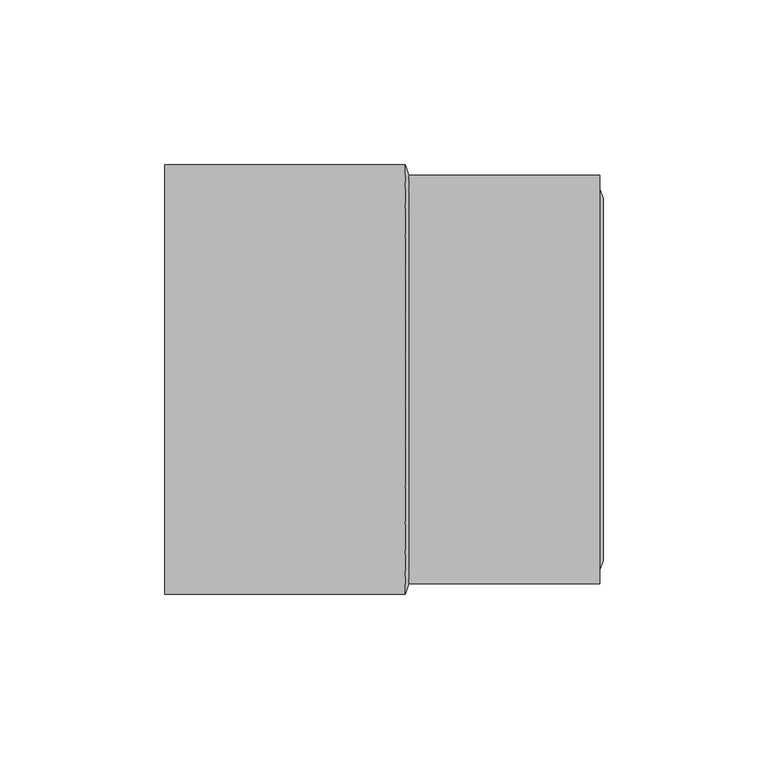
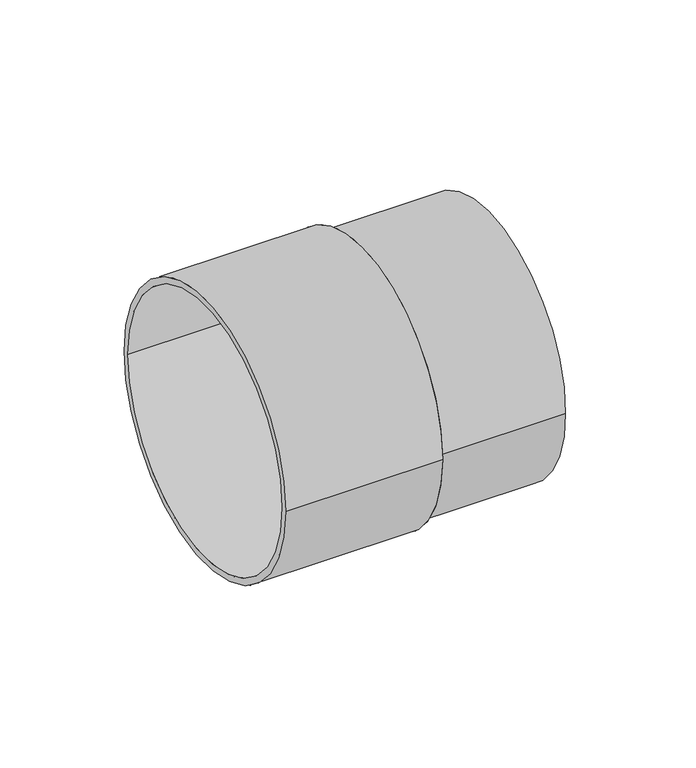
"""IFC4 building model written with IfcOpenShell, lengths in millimetres: pipe fitting geometry, Superdrain HTUG-Connection piece to cast-iron pipes : Superdrain HTUG-Connection piece to cast-iron pipes."""

from ifc_helpers import new_model, si_unit, point, frame, origin, origin_2d, place, context, project, spatial, polyline, circle_curve, trimmed, segment, composite_curve, outline, extrude, source, transform, mapped, element, save
from ifc_brep_helpers import plane_surface, revolved_surface, advanced_brep


def pipe_fitting_736c5d36(model_context):
    return source(origin(), model_context, "Body", "SolidModel", [
        extrude(outline(composite_curve([segment(trimmed(circle_curve(origin_2d(), 57.75), [point((-57.75, 0.0))], [point((57.75, 0.0))], False, "CARTESIAN"), True, "CONTINUOUS"), segment(trimmed(circle_curve(origin_2d(), 57.75), [point((57.75, 0.0))], [point((-57.75, 0.0))], False, "CARTESIAN"), True, "CONTINUOUS")], self_intersect=False), holes=[composite_curve([segment(trimmed(circle_curve(origin_2d(), 55.0), [point((-55.0, 0.0))], [point((55.0, 0.0))], True, "CARTESIAN"), True, "CONTINUOUS"), segment(trimmed(circle_curve(origin_2d(), 55.0), [point((55.0, 0.0))], [point((-55.0, 0.0))], True, "CARTESIAN"), True, "CONTINUOUS")], self_intersect=False)]), frame((-14.0, 0.0, 0.0), z_axis=(1.0, 0.0, 0.0), x_axis=(0.0, 1.0, 0.0)), (0.0, 0.0, 1.0), 73.0),
        advanced_brep(
        [(60.0, -55.0, 0.0), (60.0, 55.0, 0.0), (59.0, -57.75, 0.0), (59.0, 57.75, 0.0)],
        [
            (0, 1, circle_curve(frame((60.0, 0.0, 0.0), z_axis=(1.0, 0.0, 0.0), x_axis=(0.0, -1.0, 0.0)), 55.0)),
            (1, 0, circle_curve(frame((60.0, 0.0, 0.0), z_axis=(1.0, 0.0, 0.0), x_axis=(0.0, 1.0, 0.0)), 55.0)),
            (2, 3, circle_curve(frame((59.0, 0.0, 0.0), z_axis=(-1.0, 0.0, 0.0), x_axis=(0.0, 1.0, 0.0)), 57.75)),
            (3, 2, circle_curve(frame((59.0, 0.0, 0.0), z_axis=(-1.0, 0.0, 0.0), x_axis=(0.0, -1.0, 0.0)), 57.75)),
            (3, 1),
            (0, 2),
        ],
        [
            plane_surface(frame((60.0, 0.0, 0.0), z_axis=(1.0, 0.0, 0.0), x_axis=(0.0, 0.0, -1.0))),
            plane_surface(frame((59.0, 0.0, 0.0), z_axis=(-1.0, 0.0, 0.0), x_axis=(0.0, 0.0, -1.0))),
            revolved_surface(polyline([(60.0, -55.0, 0.0), (59.0, -57.75, 0.0)]), (80.0, 0.0, 0.0), (-1.0, 0.0, 0.0)),
            revolved_surface(polyline([(60.0, 55.0, 0.0), (59.0, 57.75, 0.0)]), (80.0, 0.0, 0.0), (-1.0, 0.0, 0.0)),
        ],
        [
            (0, [[1, 2]]),
            (1, [[3, 4]]),
            (2, [[-4, 5, -1, 6]]),
            (3, [[-3, -6, -2, -5]]),
        ],
    ),
        extrude(outline(composite_curve([segment(trimmed(circle_curve(origin_2d(), 65.1), [point((-65.1, 0.0))], [point((65.1, 0.0))], False, "CARTESIAN"), True, "CONTINUOUS"), segment(trimmed(circle_curve(origin_2d(), 65.1), [point((65.1, 0.0))], [point((-65.1, 0.0))], False, "CARTESIAN"), True, "CONTINUOUS")], self_intersect=False), holes=[composite_curve([segment(trimmed(circle_curve(origin_2d(), 62.0), [point((-62.0, 0.0))], [point((62.0, 0.0))], True, "CARTESIAN"), True, "CONTINUOUS"), segment(trimmed(circle_curve(origin_2d(), 62.0), [point((62.0, 0.0))], [point((-62.0, 0.0))], True, "CARTESIAN"), True, "CONTINUOUS")], self_intersect=False)]), frame((-73.0, 0.0, 0.0), z_axis=(1.0, 0.0, 0.0), x_axis=(0.0, 1.0, 0.0)), (0.0, 0.0, 1.0), 73.0),
        advanced_brep(
        [(1.0, -62.0, 0.0), (1.0, 62.0, 0.0), (0.0, -65.1, 0.0), (0.0, 65.1, 0.0)],
        [
            (0, 1, circle_curve(frame((1.0, 0.0, 0.0), z_axis=(1.0, 0.0, 0.0), x_axis=(0.0, -1.0, 0.0)), 62.0)),
            (1, 0, circle_curve(frame((1.0, 0.0, 0.0), z_axis=(1.0, 0.0, 0.0), x_axis=(0.0, 1.0, 0.0)), 62.0)),
            (2, 3, circle_curve(frame((0.0, 0.0, 0.0), z_axis=(-1.0, 0.0, 0.0), x_axis=(0.0, 1.0, 0.0)), 65.1)),
            (3, 2, circle_curve(frame((0.0, 0.0, 0.0), z_axis=(-1.0, 0.0, 0.0), x_axis=(0.0, -1.0, 0.0)), 65.1)),
            (3, 1),
            (0, 2),
        ],
        [
            plane_surface(frame((1.0, 0.0, 0.0), z_axis=(1.0, 0.0, 0.0), x_axis=(0.0, 0.0, -1.0))),
            plane_surface(frame((0.0, 0.0, 0.0), z_axis=(-1.0, 0.0, 0.0), x_axis=(0.0, 0.0, -1.0))),
            revolved_surface(polyline([(1.0, -61.99999999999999, 0.0), (0.0, -65.1, 0.0)]), (21.0, 0.0, 0.0), (-1.0, 0.0, 0.0)),
            revolved_surface(polyline([(1.0, 61.99999999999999, 0.0), (0.0, 65.1, 0.0)]), (21.0, 0.0, 0.0), (-1.0, 0.0, 0.0)),
        ],
        [
            (0, [[1, 2]]),
            (1, [[3, 4]]),
            (2, [[-4, 5, -1, 6]]),
            (3, [[-3, -6, -2, -5]]),
        ],
    ),
        extrude(outline(composite_curve([segment(trimmed(circle_curve(origin_2d(), 62.0), [point((-62.0, 0.0))], [point((62.0, 0.0))], False, "CARTESIAN"), True, "CONTINUOUS"), segment(trimmed(circle_curve(origin_2d(), 62.0), [point((62.0, 0.0))], [point((-62.0, 0.0))], False, "CARTESIAN"), True, "CONTINUOUS")], self_intersect=False)), frame((0.0, 0.0, 0.0), z_axis=(1.0, 0.0, 0.0), x_axis=(0.0, 1.0, 0.0)), (0.0, 0.0, 1.0), 59.0),
    ])


if __name__ == "__main__":
    model = new_model("IFC4")
    model_context = context("Model", 3, world=origin())
    ifc_project = project(units=[si_unit("LENGTHUNIT", "METRE", prefix="MILLI")], contexts=[model_context])
    site = spatial("IfcSite", under=ifc_project)
    building = spatial("IfcBuilding", under=site)
    placement = place(None, origin())
    pipe_fitting_shape = pipe_fitting_736c5d36(model_context)
    element("IfcPipeFitting", 1, ObjectType="Superdrain HTUG-Connection piece to cast-iron pipes : Superdrain HTUG-Connection piece to cast-iron pipes", at=placement, inside=building, context=model_context, shape_type="MappedRepresentation", body=[
        mapped(pipe_fitting_shape, transform((0.0, 0.0, 0.0), x_axis=(1.0, 0.0, 0.0), y_axis=(0.0, 1.0, 0.0), z_axis=(0.0, 0.0, 1.0))),
    ])
    save(model, "model.ifc")
